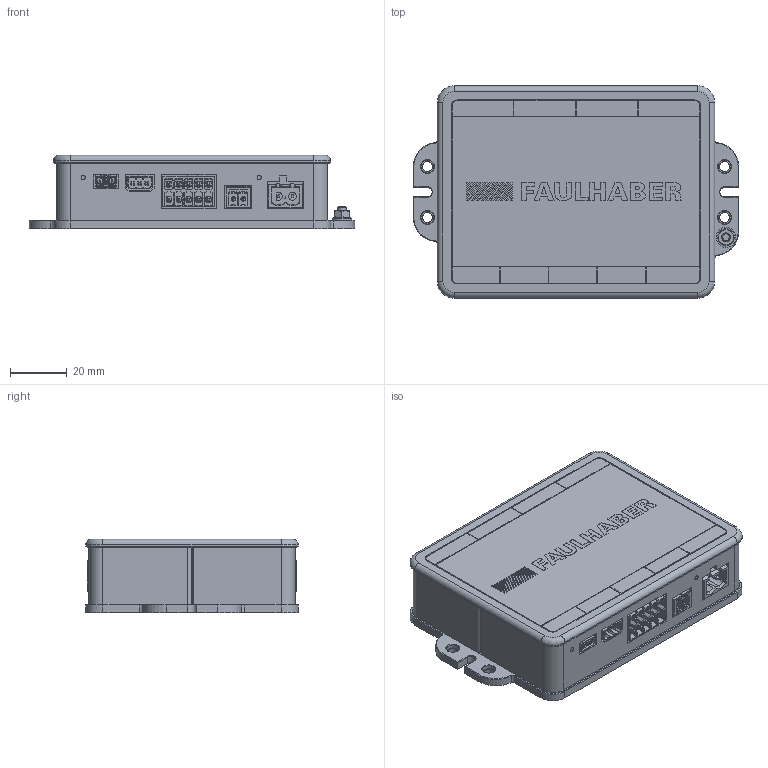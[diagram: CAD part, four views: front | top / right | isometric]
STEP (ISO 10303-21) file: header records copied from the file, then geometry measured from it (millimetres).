
FILE_DESCRIPTION(/* description */ (''),/* implementation_level */ '2;1');
FILE_NAME(/* name */ 'CONTROLLER MC50xx S RS_CO.stp',/* time_stamp */ '2016-03-02T10:14:52+01:00',/* author */ ('DR. FRITZ FAULHABER GmbH & Co. KG'),/* organization */ ('DR. FRITZ FAULHABER GmbH & Co. KG'),/* preprocessor_version */ 'ST-DEVELOPER v15',/* originating_system */ 'SIEMENS PLM Software NX 8.5',/* authorisation */ '');
FILE_SCHEMA (('AUTOMOTIVE_DESIGN { 1 0 10303 214 3 1 1 1 }'));
Products named in the file (1): Alle_Controller_Platinen
Bounding box: 115 x 75 x 26 mm (x, y, z)
Volume: 178090.9 mm3; surface area: 37146.9 mm2
Topology: 1 solids, 3 shells, 3286 faces, 9132 edges, 5968 vertices
Faces by surface type: plane 2534, cylinder 543, cone 178, bspline 25, torus 6
Full cylindrical faces by diameter (mm): 1.5 x2, 2.459 x2, 3 x2, 3.2 x1, 3.5 x4, 4.6 x4, 5.5 x2, 6 x2, 6.1 x1, 7 x1
Entity records: 107146 total; most frequent: CARTESIAN_POINT 22245, ORIENTED_EDGE 18078, DIRECTION 16863, EDGE_CURVE 9039, LINE 7427, VECTOR 7427, VERTEX_POINT 5958, AXIS2_PLACEMENT_3D 4718
